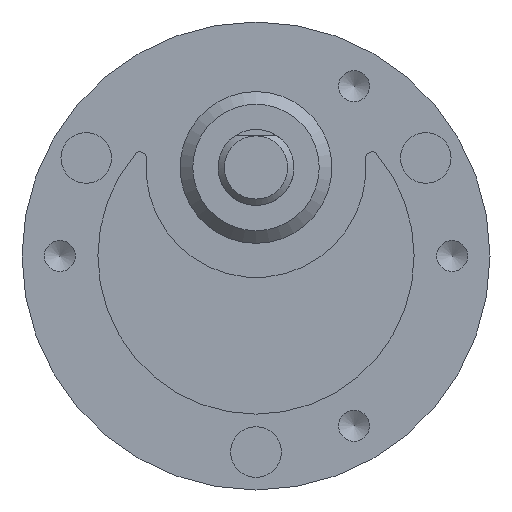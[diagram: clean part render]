
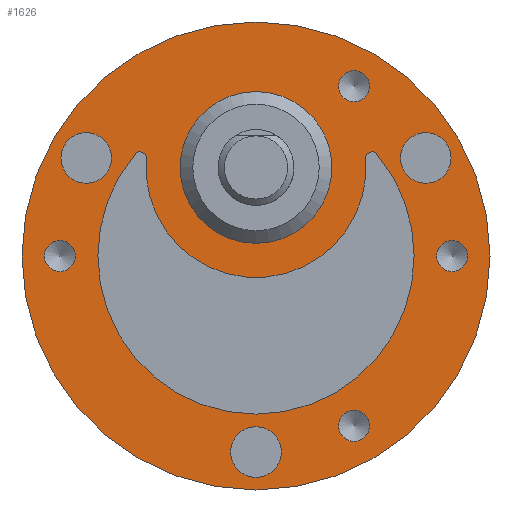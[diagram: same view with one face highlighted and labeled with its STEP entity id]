
A CAD part, front view. The second image highlights one B-rep face of the part: STEP entity #1626.
In plain terms, the highlighted planar face has unit normal (0, -1, 0).
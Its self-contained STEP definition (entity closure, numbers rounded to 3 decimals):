
#819=CARTESIAN_POINT('',(12.423,-1.4,9.482));
#820=VERTEX_POINT('',#819);
#821=CARTESIAN_POINT('',(13.423,-1.4,7.75));
#822=DIRECTION('',(0.0,1.0,0.0));
#823=DIRECTION('',(0.5,0.0,-0.866));
#824=AXIS2_PLACEMENT_3D('',#821,#822,#823);
#825=CIRCLE('',#824,2.);
#826=EDGE_CURVE('',#820,#820,#825,.T.);
#856=CARTESIAN_POINT('',(-14.423,-1.4,6.018));
#857=VERTEX_POINT('',#856);
#858=CARTESIAN_POINT('',(-13.423,-1.4,7.75));
#859=DIRECTION('',(0.0,1.,0.0));
#860=DIRECTION('',(0.5,0.0,0.866));
#861=AXIS2_PLACEMENT_3D('',#858,#859,#860);
#862=CIRCLE('',#861,2.0);
#863=EDGE_CURVE('',#857,#857,#862,.T.);
#893=CARTESIAN_POINT('',(2.0,-1.4,-15.5));
#894=VERTEX_POINT('',#893);
#895=CARTESIAN_POINT('',(0.0,-1.4,-15.5));
#896=DIRECTION('',(0.0,1.0,0.0));
#897=DIRECTION('',(-1.0,0.0,0.0));
#898=AXIS2_PLACEMENT_3D('',#895,#896,#897);
#899=CIRCLE('',#898,2.0);
#900=EDGE_CURVE('',#894,#894,#899,.T.);
#1081=CARTESIAN_POINT('',(6.,-1.4,7.));
#1082=VERTEX_POINT('',#1081);
#1083=CARTESIAN_POINT('',(0.0,-1.4,7.));
#1084=DIRECTION('',(0.0,1.0,0.0));
#1085=DIRECTION('',(-1.0,0.0,0.0));
#1086=AXIS2_PLACEMENT_3D('',#1083,#1084,#1085);
#1087=CIRCLE('',#1086,6.);
#1088=EDGE_CURVE('',#1082,#1082,#1087,.T.);
#1172=CARTESIAN_POINT('',(16.73,-1.4,0.0));
#1173=VERTEX_POINT('',#1172);
#1174=CARTESIAN_POINT('',(15.5,-1.4,0.0));
#1175=DIRECTION('',(0.0,1.0,0.0));
#1176=DIRECTION('',(1.0,0.0,0.0));
#1177=AXIS2_PLACEMENT_3D('',#1174,#1175,#1176);
#1178=CIRCLE('',#1177,1.23);
#1179=EDGE_CURVE('',#1173,#1173,#1178,.T.);
#1251=CARTESIAN_POINT('',(-14.27,-1.4,0.0));
#1252=VERTEX_POINT('',#1251);
#1253=CARTESIAN_POINT('',(-15.5,-1.4,0.0));
#1254=DIRECTION('',(0.0,1.0,0.0));
#1255=DIRECTION('',(1.0,0.0,0.0));
#1256=AXIS2_PLACEMENT_3D('',#1253,#1254,#1255);
#1257=CIRCLE('',#1256,1.23);
#1258=EDGE_CURVE('',#1252,#1252,#1257,.T.);
#1330=CARTESIAN_POINT('',(8.979,-1.4,13.423));
#1331=VERTEX_POINT('',#1330);
#1332=CARTESIAN_POINT('',(7.75,-1.4,13.423));
#1333=DIRECTION('',(0.0,1.0,0.0));
#1334=DIRECTION('',(1.0,0.0,0.0));
#1335=AXIS2_PLACEMENT_3D('',#1332,#1333,#1334);
#1336=CIRCLE('',#1335,1.23);
#1337=EDGE_CURVE('',#1331,#1331,#1336,.T.);
#1409=CARTESIAN_POINT('',(8.979,-1.4,-13.423));
#1410=VERTEX_POINT('',#1409);
#1411=CARTESIAN_POINT('',(7.75,-1.4,-13.423));
#1412=DIRECTION('',(0.0,1.0,0.0));
#1413=DIRECTION('',(1.0,0.0,0.0));
#1414=AXIS2_PLACEMENT_3D('',#1411,#1412,#1413);
#1415=CIRCLE('',#1414,1.23);
#1416=EDGE_CURVE('',#1410,#1410,#1415,.T.);
#1440=CARTESIAN_POINT('',(-9.552,-1.4,8.063));
#1441=VERTEX_POINT('',#1440);
#1448=CARTESIAN_POINT('',(9.552,-1.4,8.063));
#1449=VERTEX_POINT('',#1448);
#1450=CARTESIAN_POINT('',(0.0,-1.4,0.0));
#1451=DIRECTION('',(0.0,1.0,0.0));
#1452=DIRECTION('',(0.764,0.0,-0.645));
#1453=AXIS2_PLACEMENT_3D('',#1450,#1451,#1452);
#1454=CIRCLE('',#1453,12.5);
#1455=EDGE_CURVE('',#1449,#1441,#1454,.T.);
#1481=CARTESIAN_POINT('',(8.672,-1.4,7.7));
#1482=VERTEX_POINT('',#1481);
#1483=CARTESIAN_POINT('',(9.17,-1.4,7.74));
#1484=DIRECTION('',(0.0,1.,0.0));
#1485=DIRECTION('',(-0.764,0.0,-0.645));
#1486=AXIS2_PLACEMENT_3D('',#1483,#1484,#1485);
#1487=CIRCLE('',#1486,0.5);
#1488=EDGE_CURVE('',#1482,#1449,#1487,.T.);
#1514=CARTESIAN_POINT('',(-8.672,-1.4,7.7));
#1515=VERTEX_POINT('',#1514);
#1516=CARTESIAN_POINT('',(0.0,-1.4,7.));
#1517=DIRECTION('',(0.0,-1.,0.0));
#1518=DIRECTION('',(-0.997,0.0,0.08));
#1519=AXIS2_PLACEMENT_3D('',#1516,#1517,#1518);
#1520=CIRCLE('',#1519,8.7);
#1521=EDGE_CURVE('',#1515,#1482,#1520,.T.);
#1545=CARTESIAN_POINT('',(-9.17,-1.4,7.74));
#1546=DIRECTION('',(0.0,1.0,0.0));
#1547=DIRECTION('',(-0.997,0.0,0.08));
#1548=AXIS2_PLACEMENT_3D('',#1545,#1546,#1547);
#1549=CIRCLE('',#1548,0.5);
#1550=EDGE_CURVE('',#1441,#1515,#1549,.T.);
#1576=CARTESIAN_POINT('',(-18.5,-1.4,0.));
#1577=VERTEX_POINT('',#1576);
#1578=CARTESIAN_POINT('',(0.0,-1.4,0.0));
#1579=DIRECTION('',(0.0,-1.0,0.0));
#1580=DIRECTION('',(1.0,0.0,0.0));
#1581=AXIS2_PLACEMENT_3D('',#1578,#1579,#1580);
#1582=CIRCLE('',#1581,18.5);
#1583=EDGE_CURVE('',#1577,#1577,#1582,.T.);
#1588=CARTESIAN_POINT('',(0.0,-1.4,0.0));
#1589=DIRECTION('',(0.0,-1.0,0.0));
#1590=DIRECTION('',(0.0,0.0,-1.0));
#1591=AXIS2_PLACEMENT_3D('',#1588,#1589,#1590);
#1592=PLANE('',#1591);
#1593=ORIENTED_EDGE('',*,*,#1583,.T.);
#1594=EDGE_LOOP('',(#1593));
#1595=FACE_OUTER_BOUND('',#1594,.T.);
#1596=ORIENTED_EDGE('',*,*,#826,.T.);
#1597=EDGE_LOOP('',(#1596));
#1598=FACE_BOUND('',#1597,.T.);
#1599=ORIENTED_EDGE('',*,*,#863,.T.);
#1600=EDGE_LOOP('',(#1599));
#1601=FACE_BOUND('',#1600,.T.);
#1602=ORIENTED_EDGE('',*,*,#900,.T.);
#1603=EDGE_LOOP('',(#1602));
#1604=FACE_BOUND('',#1603,.T.);
#1605=ORIENTED_EDGE('',*,*,#1179,.T.);
#1606=EDGE_LOOP('',(#1605));
#1607=FACE_BOUND('',#1606,.T.);
#1608=ORIENTED_EDGE('',*,*,#1258,.T.);
#1609=EDGE_LOOP('',(#1608));
#1610=FACE_BOUND('',#1609,.T.);
#1611=ORIENTED_EDGE('',*,*,#1337,.T.);
#1612=EDGE_LOOP('',(#1611));
#1613=FACE_BOUND('',#1612,.T.);
#1614=ORIENTED_EDGE('',*,*,#1416,.T.);
#1615=EDGE_LOOP('',(#1614));
#1616=FACE_BOUND('',#1615,.T.);
#1617=ORIENTED_EDGE('',*,*,#1455,.T.);
#1618=ORIENTED_EDGE('',*,*,#1550,.T.);
#1619=ORIENTED_EDGE('',*,*,#1521,.T.);
#1620=ORIENTED_EDGE('',*,*,#1488,.T.);
#1621=EDGE_LOOP('',(#1617,#1618,#1619,#1620));
#1622=FACE_BOUND('',#1621,.T.);
#1623=ORIENTED_EDGE('',*,*,#1088,.T.);
#1624=EDGE_LOOP('',(#1623));
#1625=FACE_BOUND('',#1624,.T.);
#1626=ADVANCED_FACE('',(#1595,#1598,#1601,#1604,#1607,#1610,#1613,#1616,#1622,#1625),#1592,.T.);
